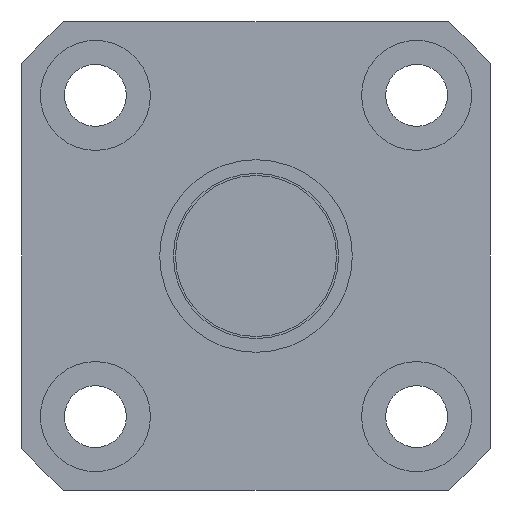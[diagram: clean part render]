
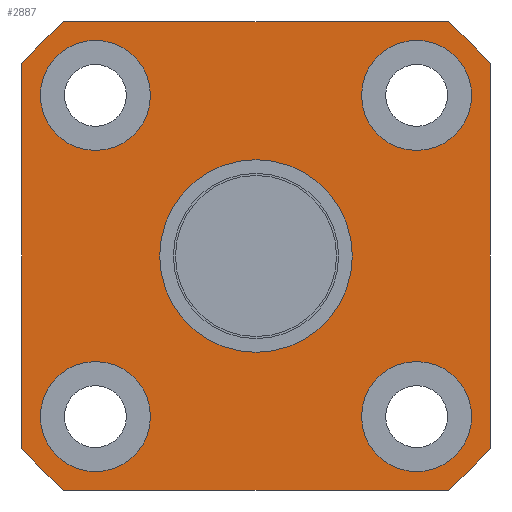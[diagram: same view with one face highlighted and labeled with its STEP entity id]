
A CAD part, left-side view. The second image highlights one B-rep face of the part: STEP entity #2887.
In plain terms, the highlighted planar face has unit normal (-1, 0, 0).
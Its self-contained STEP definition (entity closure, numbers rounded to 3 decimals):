
#479=CARTESIAN_POINT('',(146.345,15.667,-11.667));
#480=VERTEX_POINT('',#479);
#481=CARTESIAN_POINT('',(146.345,11.667,-11.667));
#482=DIRECTION('',(1.0,0.0,0.0));
#483=DIRECTION('',(0.0,1.0,0.0));
#484=AXIS2_PLACEMENT_3D('',#481,#482,#483);
#485=CIRCLE('',#484,4.0);
#486=EDGE_CURVE('',#480,#480,#485,.T.);
#547=CARTESIAN_POINT('',(146.345,-7.667,11.667));
#548=VERTEX_POINT('',#547);
#549=CARTESIAN_POINT('',(146.345,-11.667,11.667));
#550=DIRECTION('',(1.0,0.0,0.0));
#551=DIRECTION('',(0.0,1.0,0.0));
#552=AXIS2_PLACEMENT_3D('',#549,#550,#551);
#553=CIRCLE('',#552,4.0);
#554=EDGE_CURVE('',#548,#548,#553,.T.);
#615=CARTESIAN_POINT('',(146.345,15.667,11.667));
#616=VERTEX_POINT('',#615);
#617=CARTESIAN_POINT('',(146.345,11.667,11.667));
#618=DIRECTION('',(1.0,0.0,0.0));
#619=DIRECTION('',(0.0,1.0,0.0));
#620=AXIS2_PLACEMENT_3D('',#617,#618,#619);
#621=CIRCLE('',#620,4.0);
#622=EDGE_CURVE('',#616,#616,#621,.T.);
#683=CARTESIAN_POINT('',(146.345,-7.667,-11.667));
#684=VERTEX_POINT('',#683);
#685=CARTESIAN_POINT('',(146.345,-11.667,-11.667));
#686=DIRECTION('',(1.0,0.0,0.0));
#687=DIRECTION('',(0.0,1.0,0.0));
#688=AXIS2_PLACEMENT_3D('',#685,#686,#687);
#689=CIRCLE('',#688,4.0);
#690=EDGE_CURVE('',#684,#684,#689,.T.);
#2589=CARTESIAN_POINT('',(146.345,-17.0,-13.964));
#2590=VERTEX_POINT('',#2589);
#2597=CARTESIAN_POINT('',(146.345,-13.964,-17.0));
#2598=VERTEX_POINT('',#2597);
#2599=CARTESIAN_POINT('',(146.345,0.,0.0));
#2600=DIRECTION('',(1.0,0.0,0.0));
#2601=DIRECTION('',(0.0,1.0,0.0));
#2602=AXIS2_PLACEMENT_3D('',#2599,#2600,#2601);
#2603=CIRCLE('',#2602,22.0);
#2604=EDGE_CURVE('',#2590,#2598,#2603,.T.);
#2621=CARTESIAN_POINT('',(146.345,-17.0,13.964));
#2622=VERTEX_POINT('',#2621);
#2629=CARTESIAN_POINT('',(146.345,-17.0,13.964));
#2630=DIRECTION('',(0.0,0.0,-1.0));
#2631=VECTOR('',#2630,27.928);
#2632=LINE('',#2629,#2631);
#2633=EDGE_CURVE('',#2622,#2590,#2632,.T.);
#2645=CARTESIAN_POINT('',(146.345,-13.964,17.0));
#2646=VERTEX_POINT('',#2645);
#2653=CARTESIAN_POINT('',(146.345,0.,0.0));
#2654=DIRECTION('',(1.0,0.0,0.0));
#2655=DIRECTION('',(0.0,1.0,0.0));
#2656=AXIS2_PLACEMENT_3D('',#2653,#2654,#2655);
#2657=CIRCLE('',#2656,22.0);
#2658=EDGE_CURVE('',#2646,#2622,#2657,.T.);
#2670=CARTESIAN_POINT('',(146.345,13.964,17.0));
#2671=VERTEX_POINT('',#2670);
#2678=CARTESIAN_POINT('',(146.345,13.964,17.0));
#2679=DIRECTION('',(0.0,-1.0,0.0));
#2680=VECTOR('',#2679,27.928);
#2681=LINE('',#2678,#2680);
#2682=EDGE_CURVE('',#2671,#2646,#2681,.T.);
#2694=CARTESIAN_POINT('',(146.345,17.0,13.964));
#2695=VERTEX_POINT('',#2694);
#2702=CARTESIAN_POINT('',(146.345,0.,0.0));
#2703=DIRECTION('',(1.0,0.0,0.0));
#2704=DIRECTION('',(0.0,1.0,0.0));
#2705=AXIS2_PLACEMENT_3D('',#2702,#2703,#2704);
#2706=CIRCLE('',#2705,22.0);
#2707=EDGE_CURVE('',#2695,#2671,#2706,.T.);
#2719=CARTESIAN_POINT('',(146.345,17.0,-13.964));
#2720=VERTEX_POINT('',#2719);
#2727=CARTESIAN_POINT('',(146.345,17.0,-13.964));
#2728=DIRECTION('',(0.0,0.0,1.0));
#2729=VECTOR('',#2728,27.928);
#2730=LINE('',#2727,#2729);
#2731=EDGE_CURVE('',#2720,#2695,#2730,.T.);
#2743=CARTESIAN_POINT('',(146.345,13.964,-17.0));
#2744=VERTEX_POINT('',#2743);
#2751=CARTESIAN_POINT('',(146.345,0.,0.0));
#2752=DIRECTION('',(1.0,0.0,0.0));
#2753=DIRECTION('',(0.0,1.0,0.0));
#2754=AXIS2_PLACEMENT_3D('',#2751,#2752,#2753);
#2755=CIRCLE('',#2754,22.0);
#2756=EDGE_CURVE('',#2744,#2720,#2755,.T.);
#2769=CARTESIAN_POINT('',(146.345,-13.964,-17.0));
#2770=DIRECTION('',(0.0,1.0,0.0));
#2771=VECTOR('',#2770,27.928);
#2772=LINE('',#2769,#2771);
#2773=EDGE_CURVE('',#2598,#2744,#2772,.T.);
#2784=CARTESIAN_POINT('',(146.345,7.,0.0));
#2785=VERTEX_POINT('',#2784);
#2786=CARTESIAN_POINT('',(146.345,0.,0.0));
#2787=DIRECTION('',(1.0,0.0,0.0));
#2788=DIRECTION('',(0.0,1.0,0.0));
#2789=AXIS2_PLACEMENT_3D('',#2786,#2787,#2788);
#2790=CIRCLE('',#2789,7.);
#2791=EDGE_CURVE('',#2785,#2785,#2790,.T.);
#2857=CARTESIAN_POINT('',(146.345,9.75,0.0));
#2858=DIRECTION('',(-1.0,0.0,0.0));
#2859=DIRECTION('',(0.0,0.0,1.0));
#2860=AXIS2_PLACEMENT_3D('',#2857,#2858,#2859);
#2861=PLANE('',#2860);
#2862=ORIENTED_EDGE('',*,*,#2682,.F.);
#2863=ORIENTED_EDGE('',*,*,#2707,.F.);
#2864=ORIENTED_EDGE('',*,*,#2731,.F.);
#2865=ORIENTED_EDGE('',*,*,#2756,.F.);
#2866=ORIENTED_EDGE('',*,*,#2773,.F.);
#2867=ORIENTED_EDGE('',*,*,#2604,.F.);
#2868=ORIENTED_EDGE('',*,*,#2633,.F.);
#2869=ORIENTED_EDGE('',*,*,#2658,.F.);
#2870=EDGE_LOOP('',(#2862,#2863,#2864,#2865,#2866,#2867,#2868,#2869));
#2871=FACE_OUTER_BOUND('',#2870,.T.);
#2872=ORIENTED_EDGE('',*,*,#486,.T.);
#2873=EDGE_LOOP('',(#2872));
#2874=FACE_BOUND('',#2873,.T.);
#2875=ORIENTED_EDGE('',*,*,#554,.T.);
#2876=EDGE_LOOP('',(#2875));
#2877=FACE_BOUND('',#2876,.T.);
#2878=ORIENTED_EDGE('',*,*,#622,.T.);
#2879=EDGE_LOOP('',(#2878));
#2880=FACE_BOUND('',#2879,.T.);
#2881=ORIENTED_EDGE('',*,*,#690,.T.);
#2882=EDGE_LOOP('',(#2881));
#2883=FACE_BOUND('',#2882,.T.);
#2884=ORIENTED_EDGE('',*,*,#2791,.T.);
#2885=EDGE_LOOP('',(#2884));
#2886=FACE_BOUND('',#2885,.T.);
#2887=ADVANCED_FACE('',(#2871,#2874,#2877,#2880,#2883,#2886),#2861,.T.);
